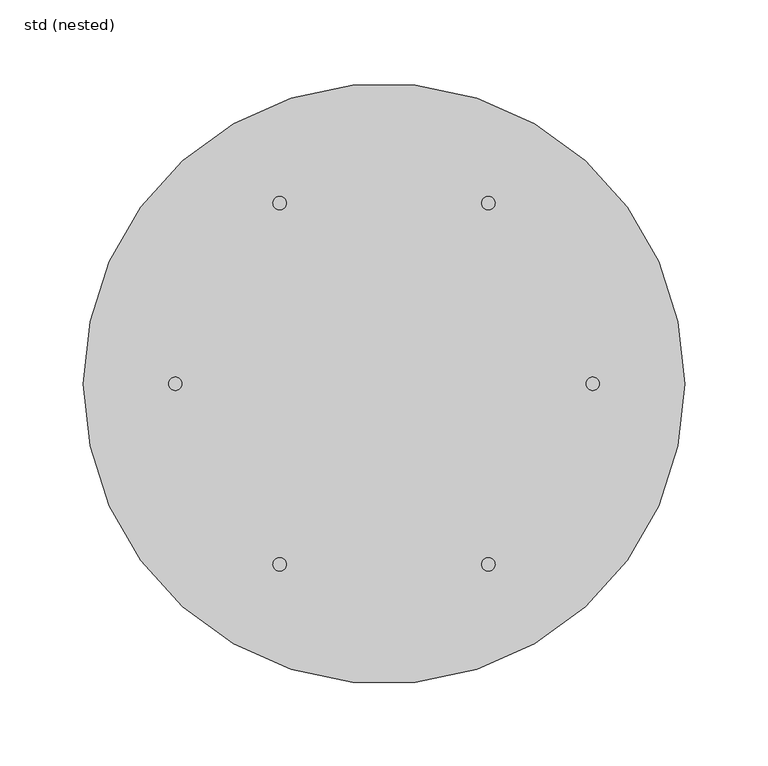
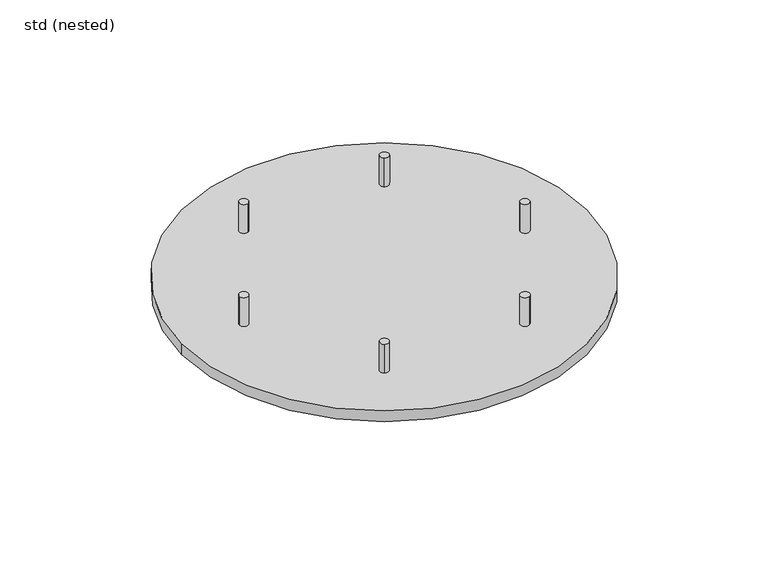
"""IFC4 building model written with IfcOpenShell, lengths in millimetres: sanitary terminal geometry, ZZZ_do not use_PF_CI_WPB_upper part for Passavant Jet_ACO : std (nested)."""

from ifc_helpers import new_model, si_unit, point, frame, frame_2d, origin, origin_with_axes, origin_2d, place, context, project, spatial, circle_curve, trimmed, segment, composite_curve, outline, extrude, source, transform, mapped, element, save
from ifc_brep_helpers import plane_surface, cylinder_surface, advanced_brep


def std_nested_ca8b4cce(model_context):
    return source(origin(), model_context, "Body", "SolidModel", [
        extrude(outline(composite_curve([segment(trimmed(circle_curve(frame_2d((62.5, 108.2531755)), 4.0), [point((64.5, 111.7172771))], [point((60.5, 104.7890739))], False, "CARTESIAN"), True, "CONTINUOUS"), segment(trimmed(circle_curve(frame_2d((62.5, 108.2531755)), 4.0), [point((60.5, 104.7890739))], [point((64.5, 111.7172771))], False, "CARTESIAN"), True, "CONTINUOUS")], self_intersect=False)), origin_with_axes(), (0.0, 0.0, 1.0), 27.0),
        extrude(outline(composite_curve([segment(trimmed(circle_curve(frame_2d((-62.5, 108.2531755)), 4.0), [point((-64.5, 111.7172771))], [point((-60.5, 104.7890739))], False, "CARTESIAN"), True, "CONTINUOUS"), segment(trimmed(circle_curve(frame_2d((-62.5, 108.2531755)), 4.0), [point((-60.5, 104.7890739))], [point((-64.5, 111.7172771))], False, "CARTESIAN"), True, "CONTINUOUS")], self_intersect=False)), origin_with_axes(), (0.0, 0.0, 1.0), 27.0),
        extrude(outline(composite_curve([segment(trimmed(circle_curve(frame_2d((-125.0, 0.0)), 4.0), [point((-129.0, 0.0))], [point((-121.0, 0.0))], False, "CARTESIAN"), True, "CONTINUOUS"), segment(trimmed(circle_curve(frame_2d((-125.0, 0.0)), 4.0), [point((-121.0, 0.0))], [point((-129.0, 0.0))], False, "CARTESIAN"), True, "CONTINUOUS")], self_intersect=False)), origin_with_axes(), (0.0, 0.0, 1.0), 27.0),
        extrude(outline(composite_curve([segment(trimmed(circle_curve(frame_2d((-62.5, -108.2531755)), 4.0), [point((-64.5, -111.7172771))], [point((-60.5, -104.7890739))], False, "CARTESIAN"), True, "CONTINUOUS"), segment(trimmed(circle_curve(frame_2d((-62.5, -108.2531755)), 4.0), [point((-60.5, -104.7890739))], [point((-64.5, -111.7172771))], False, "CARTESIAN"), True, "CONTINUOUS")], self_intersect=False)), origin_with_axes(), (0.0, 0.0, 1.0), 27.0),
        extrude(outline(composite_curve([segment(trimmed(circle_curve(frame_2d((62.5, -108.2531755)), 4.0), [point((64.5, -111.7172771))], [point((60.5, -104.7890739))], False, "CARTESIAN"), True, "CONTINUOUS"), segment(trimmed(circle_curve(frame_2d((62.5, -108.2531755)), 4.0), [point((60.5, -104.7890739))], [point((64.5, -111.7172771))], False, "CARTESIAN"), True, "CONTINUOUS")], self_intersect=False)), origin_with_axes(), (0.0, 0.0, 1.0), 27.0),
        extrude(outline(composite_curve([segment(trimmed(circle_curve(frame_2d((125.0, 0.0)), 4.0), [point((129.0, 0.0))], [point((121.0, 0.0))], False, "CARTESIAN"), True, "CONTINUOUS"), segment(trimmed(circle_curve(frame_2d((125.0, 0.0)), 4.0), [point((121.0, 0.0))], [point((129.0, 0.0))], False, "CARTESIAN"), True, "CONTINUOUS")], self_intersect=False)), origin_with_axes(), (0.0, 0.0, 1.0), 27.0),
        extrude(outline(composite_curve([segment(trimmed(circle_curve(origin_2d(), 77.0), [point((-77.0, 0.0))], [point((77.0, 0.0))], False, "CARTESIAN"), True, "CONTINUOUS"), segment(trimmed(circle_curve(origin_2d(), 77.0), [point((77.0, 0.0))], [point((-77.0, 0.0))], False, "CARTESIAN"), True, "CONTINUOUS")], self_intersect=False)), frame((0.0, 0.0, -50.0), z_axis=(0.0, 0.0, 1.0), x_axis=(1.0, 0.0, 0.0)), (0.0, 0.0, 1.0), 30.0),
        advanced_brep(
        [(0.0, -77.0, -20.0), (0.0, 77.0, -20.0), (0.0, 77.0, -10.0), (0.0, -77.0, -10.0), (-180.0, 0.0, -10.0), (180.0, 0.0, -10.0), (-180.0, 0.0, 0.0), (180.0, 0.0, 0.0)],
        [
            (0, 1, circle_curve(frame((0.0, 0.0, -20.0), z_axis=(0.0, 0.0, -1.0), x_axis=(0.0, 1.0, 0.0)), 77.0)),
            (1, 0, circle_curve(frame((0.0, 0.0, -20.0), z_axis=(0.0, 0.0, -1.0), x_axis=(0.0, 1.0, 0.0)), 77.0)),
            (1, 2),
            (2, 3, circle_curve(frame((0.0, 0.0, -10.0), z_axis=(0.0, 0.0, -1.0), x_axis=(0.0, 1.0, 0.0)), 77.0)),
            (3, 0),
            (3, 2, circle_curve(frame((0.0, 0.0, -10.0), z_axis=(0.0, 0.0, -1.0), x_axis=(0.0, 1.0, 0.0)), 77.0)),
            (4, 5, circle_curve(frame((0.0, 0.0, -10.0), z_axis=(0.0, 0.0, -1.0), x_axis=(1.0, 0.0, 0.0)), 180.0)),
            (5, 4, circle_curve(frame((0.0, 0.0, -10.0), z_axis=(0.0, 0.0, -1.0), x_axis=(1.0, 0.0, 0.0)), 180.0)),
            (6, 7, circle_curve(origin_with_axes(), 180.0)),
            (7, 6, circle_curve(origin_with_axes(), 180.0)),
            (5, 7),
            (6, 4),
        ],
        [
            plane_surface(frame((0.0, 77.0, -20.0), z_axis=(0.0, 0.0, -1.0), x_axis=(1.0, 0.0, 0.0))),
            cylinder_surface(frame((0.0, 0.0, -20.0), z_axis=(0.0, 0.0, 1.0), x_axis=(0.0, 1.0, 0.0)), 77.0),
            plane_surface(frame((180.0, 0.0, -10.0), z_axis=(0.0, 0.0, -1.0), x_axis=(0.0, -1.0, 0.0))),
            plane_surface(frame((180.0, 0.0, 0.0), z_axis=(0.0, 0.0, 1.0), x_axis=(0.0, 1.0, 0.0))),
            cylinder_surface(frame((0.0, 0.0, -10.0), z_axis=(0.0, 0.0, 1.0), x_axis=(1.0, 0.0, 0.0)), 180.0),
        ],
        [
            (0, [[1, 2]]),
            (1, [[-2, 3, 4, 5]]),
            (1, [[-1, -5, 6, -3]]),
            (2, [[7, 8], [-4, -6]]),
            (3, [[9, 10]]),
            (4, [[-8, 11, -9, 12]]),
            (4, [[-7, -12, -10, -11]]),
        ],
    ),
    ])


if __name__ == "__main__":
    model = new_model("IFC4")
    model_context = context("Model", 3, world=origin())
    ifc_project = project(units=[si_unit("LENGTHUNIT", "METRE", prefix="MILLI")], contexts=[model_context])
    site = spatial("IfcSite", under=ifc_project)
    building = spatial("IfcBuilding", under=site)
    placement = place(None, origin())
    std_nested_shape = std_nested_ca8b4cce(model_context)
    element("IfcSanitaryTerminal", 1, ObjectType="ZZZ_do not use_PF_CI_WPB_upper part for Passavant Jet_ACO : std (nested)", at=placement, inside=building, context=model_context, shape_type="MappedRepresentation", body=[
        mapped(std_nested_shape, transform((0.0, 0.0, 0.0), x_axis=(1.0, 0.0, 0.0), y_axis=(0.0, 1.0, 0.0), z_axis=(0.0, 0.0, 1.0))),
    ])
    save(model, "model.ifc")
